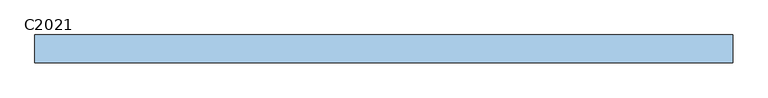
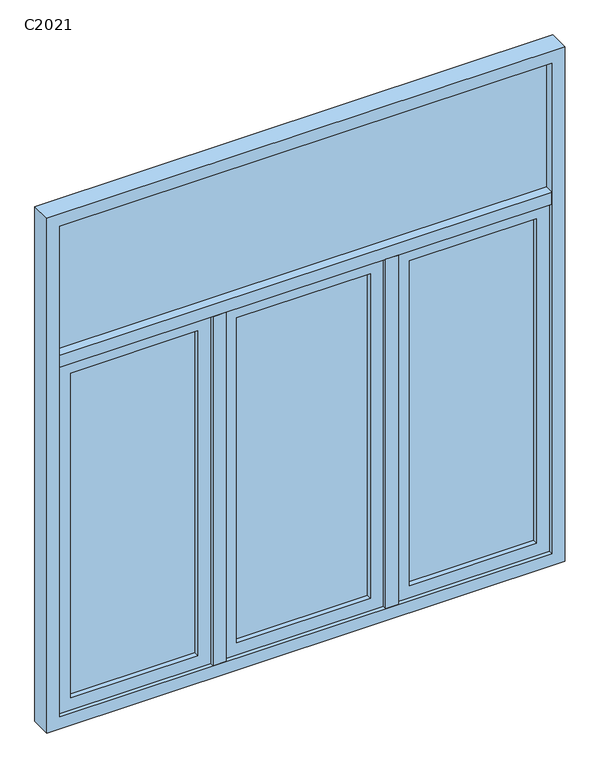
"""IFC4 building model written with IfcOpenShell, lengths in millimetres: window geometry, 组合窗 - 双层三列(三扇平开) - 上部单扇 : C2021."""

from ifc_helpers import new_model, si_unit, frame, origin, place, context, project, spatial, polyline, outline, extrude, source, transform, mapped, element, save


def c2021_733b1f83(model_context):
    return source(origin(), model_context, "Body", "SweptSolid", [
        extrude(outline(polyline([(258.3333333, -10.0), (-258.3333333, -10.0), (-258.3333333, 0.0), (258.3333333, 0.0), (258.3333333, -10.0)])), frame((0.0, 0.0, 1000.0), z_axis=(0.0, 0.0, 1.0), x_axis=(1.0, 0.0, 0.0)), (0.0, 0.0, 1.0), 1325.0),
        extrude(outline(polyline([(2375.0, 308.3333333), (2375.0, -308.3333333), (950.0, -308.3333333), (950.0, 308.3333333), (2375.0, 308.3333333)]), holes=[polyline([(1000.0, 258.3333333), (1000.0, -258.3333333), (2325.0, -258.3333333), (2325.0, 258.3333333), (1000.0, 258.3333333)])]), frame((0.0, -30.0, 0.0), z_axis=(0.0, 1.0, 0.0), x_axis=(0.0, 0.0, 1.0)), (0.0, 0.0, 1.0), 50.0),
        extrude(outline(polyline([(950.0, -10.0), (-950.0, -10.0), (-950.0, 0.0), (950.0, 0.0), (950.0, -10.0)])), frame((0.0, 0.0, 2425.0), z_axis=(0.0, 0.0, 1.0), x_axis=(1.0, 0.0, 0.0)), (0.0, 0.0, 1.0), 525.0),
        extrude(outline(polyline([(-408.3333333, -10.0), (-900.0, -10.0), (-900.0, 0.0), (-408.3333333, 0.0), (-408.3333333, -10.0)])), frame((0.0, 0.0, 1000.0), z_axis=(0.0, 0.0, 1.0), x_axis=(1.0, 0.0, 0.0)), (0.0, 0.0, 1.0), 1325.0),
        extrude(outline(polyline([(2375.0, -358.3333333), (2375.0, -950.0), (950.0, -950.0), (950.0, -358.3333333), (2375.0, -358.3333333)]), holes=[polyline([(1000.0, -408.3333333), (1000.0, -900.0), (2325.0, -900.0), (2325.0, -408.3333333), (1000.0, -408.3333333)])]), frame((0.0, -30.0, 0.0), z_axis=(0.0, 1.0, 0.0), x_axis=(0.0, 0.0, 1.0)), (0.0, 0.0, 1.0), 50.0),
        extrude(outline(polyline([(900.0, -10.0), (408.3333333, -10.0), (408.3333333, 0.0), (900.0, 0.0), (900.0, -10.0)])), frame((0.0, 0.0, 1000.0), z_axis=(0.0, 0.0, 1.0), x_axis=(1.0, 0.0, 0.0)), (0.0, 0.0, 1.0), 1325.0),
        extrude(outline(polyline([(2375.0, 950.0), (2375.0, 358.3333333), (950.0, 358.3333333), (950.0, 950.0), (2375.0, 950.0)]), holes=[polyline([(1000.0, 900.0), (1000.0, 408.3333333), (2325.0, 408.3333333), (2325.0, 900.0), (1000.0, 900.0)])]), frame((0.0, -30.0, 0.0), z_axis=(0.0, 1.0, 0.0), x_axis=(0.0, 0.0, 1.0)), (0.0, 0.0, 1.0), 50.0),
        extrude(outline(polyline([(308.3333333, 35.0), (358.3333333, 35.0), (358.3333333, -45.0), (308.3333333, -45.0), (308.3333333, 35.0)])), frame((0.0, 0.0, 950.0), z_axis=(0.0, 0.0, 1.0), x_axis=(1.0, 0.0, 0.0)), (0.0, 0.0, 1.0), 1425.0),
        extrude(outline(polyline([(-358.3333333, 35.0), (-308.3333333, 35.0), (-308.3333333, -45.0), (-358.3333333, -45.0), (-358.3333333, 35.0)])), frame((0.0, 0.0, 950.0), z_axis=(0.0, 0.0, 1.0), x_axis=(1.0, 0.0, 0.0)), (0.0, 0.0, 1.0), 1425.0),
        extrude(outline(polyline([(-950.0, 35.0), (950.0, 35.0), (950.0, -45.0), (-950.0, -45.0), (-950.0, 35.0)])), frame((0.0, 0.0, 2375.0), z_axis=(0.0, 0.0, 1.0), x_axis=(1.0, 0.0, 0.0)), (0.0, 0.0, 1.0), 50.0),
        extrude(outline(polyline([(3000.0, -1000.0), (900.0, -1000.0), (900.0, 1000.0), (3000.0, 1000.0), (3000.0, -1000.0)]), holes=[polyline([(2950.0, 950.0), (950.0, 950.0), (950.0, -950.0), (2950.0, -950.0), (2950.0, 950.0)])]), frame((0.0, -45.0, 0.0), z_axis=(0.0, 1.0, 0.0), x_axis=(0.0, 0.0, 1.0)), (0.0, 0.0, 1.0), 80.0),
    ])


if __name__ == "__main__":
    model = new_model("IFC4")
    model_context = context("Model", 3, world=origin())
    ifc_project = project(units=[si_unit("LENGTHUNIT", "METRE", prefix="MILLI")], contexts=[model_context])
    site = spatial("IfcSite", under=ifc_project)
    building = spatial("IfcBuilding", under=site)
    placement = place(None, origin())
    c2021_shape = c2021_733b1f83(model_context)
    element("IfcWindow", 1, ObjectType="组合窗 - 双层三列(三扇平开) - 上部单扇 : C2021", at=placement, inside=building, context=model_context, shape_type="MappedRepresentation", body=[
        mapped(c2021_shape, transform((0.0, 0.0, 0.0), x_axis=(1.0, 0.0, 0.0), y_axis=(0.0, 1.0, 0.0), z_axis=(0.0, 0.0, 1.0))),
    ])
    save(model, "model.ifc")
